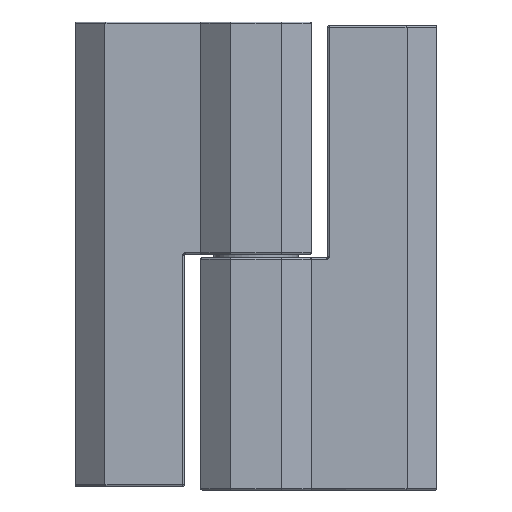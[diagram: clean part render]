
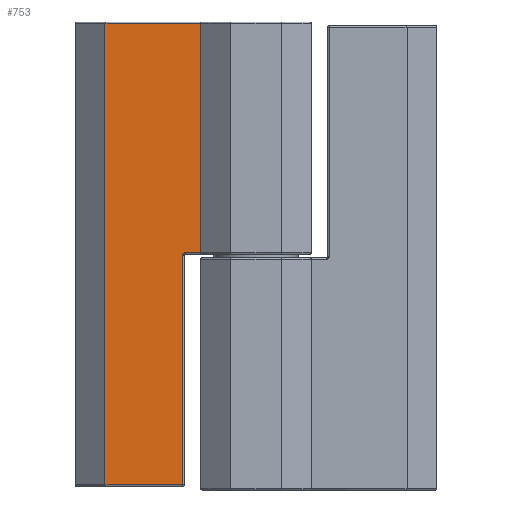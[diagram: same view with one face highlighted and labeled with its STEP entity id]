
A CAD part, front view. The second image highlights one B-rep face of the part: STEP entity #753.
In plain terms, the highlighted planar face has unit normal (0, -1, 0).
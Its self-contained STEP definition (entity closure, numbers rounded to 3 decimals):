
#9 = EDGE_CURVE ( 'NONE', #4362, #2622, #4369, .T. ) ;
#257 = ORIENTED_EDGE ( 'NONE', *, *, #3281, .T. ) ;
#267 = CARTESIAN_POINT ( 'NONE',  ( -1.45, -11., 64. ) ) ;
#299 = DIRECTION ( 'NONE',  ( 0., 0., 1. ) ) ;
#412 = ORIENTED_EDGE ( 'NONE', *, *, #1284, .T. ) ;
#524 = DIRECTION ( 'NONE',  ( -1., 0., 0. ) ) ;
#566 = ORIENTED_EDGE ( 'NONE', *, *, #2346, .T. ) ;
#589 = ORIENTED_EDGE ( 'NONE', *, *, #4426, .T. ) ;
#682 = VECTOR ( 'NONE', #299, 1000. ) ;
#690 = CARTESIAN_POINT ( 'NONE',  ( -1.45, -11., 31.8 ) ) ;
#692 = VERTEX_POINT ( 'NONE', #4321 ) ;
#753 = ADVANCED_FACE ( 'NONE', ( #4424 ), #1237, .F. ) ;
#781 = DIRECTION ( 'NONE',  ( 0., 0., 1. ) ) ;
#800 = EDGE_CURVE ( 'NONE', #1198, #4178, #3312, .T. ) ;
#918 = CARTESIAN_POINT ( 'NONE',  ( -12.15, -11., 63.8 ) ) ;
#942 = VECTOR ( 'NONE', #3270, 1000. ) ;
#961 = VECTOR ( 'NONE', #1096, 1000. ) ;
#991 = VERTEX_POINT ( 'NONE', #4474 ) ;
#1096 = DIRECTION ( 'NONE',  ( 0., 0., -1. ) ) ;
#1146 = VERTEX_POINT ( 'NONE', #918 ) ;
#1172 = CARTESIAN_POINT ( 'NONE',  ( -12.15, -11., 64. ) ) ;
#1197 = DIRECTION ( 'NONE',  ( 0., 0., 1. ) ) ;
#1198 = VERTEX_POINT ( 'NONE', #3873 ) ;
#1237 = PLANE ( 'NONE',  #2738 ) ;
#1284 = EDGE_CURVE ( 'NONE', #4362, #4178, #3155, .T. ) ;
#1432 = LINE ( 'NONE', #4278, #961 ) ;
#1959 = ORIENTED_EDGE ( 'NONE', *, *, #9, .F. ) ;
#2195 = VECTOR ( 'NONE', #524, 1000. ) ;
#2250 = CARTESIAN_POINT ( 'NONE',  ( 1.05, -11., 64. ) ) ;
#2262 = CARTESIAN_POINT ( 'NONE',  ( -1.05, -11., 32.2 ) ) ;
#2346 = EDGE_CURVE ( 'NONE', #692, #2622, #3108, .T. ) ;
#2545 = CARTESIAN_POINT ( 'NONE',  ( -1.05, -11., 31.8 ) ) ;
#2611 = LINE ( 'NONE', #4445, #2195 ) ;
#2622 = VERTEX_POINT ( 'NONE', #690 ) ;
#2738 = AXIS2_PLACEMENT_3D ( 'NONE', #1172, #3011, #1197 ) ;
#2831 = DIRECTION ( 'NONE',  ( 1., 0., 0. ) ) ;
#2889 = VECTOR ( 'NONE', #4008, 1000. ) ;
#2896 = CARTESIAN_POINT ( 'NONE',  ( 1.05, -11., 32.2 ) ) ;
#2921 = LINE ( 'NONE', #3288, #942 ) ;
#3011 = DIRECTION ( 'NONE',  ( 0., 1., 0. ) ) ;
#3108 = LINE ( 'NONE', #267, #682 ) ;
#3155 = LINE ( 'NONE', #3847, #3935 ) ;
#3270 = DIRECTION ( 'NONE',  ( 1., 0., 0. ) ) ;
#3281 = EDGE_CURVE ( 'NONE', #991, #692, #2921, .T. ) ;
#3288 = CARTESIAN_POINT ( 'NONE',  ( -12.15, -11., 0.2 ) ) ;
#3312 = LINE ( 'NONE', #2250, #2889 ) ;
#3616 = EDGE_CURVE ( 'NONE', #1198, #1146, #2611, .T. ) ;
#3847 = CARTESIAN_POINT ( 'NONE',  ( -12.15, -11., 32.2 ) ) ;
#3873 = CARTESIAN_POINT ( 'NONE',  ( 1.05, -11., 63.8 ) ) ;
#3882 = ORIENTED_EDGE ( 'NONE', *, *, #800, .F. ) ;
#3935 = VECTOR ( 'NONE', #2831, 1000. ) ;
#3958 = DIRECTION ( 'NONE',  ( 0., -1., 0. ) ) ;
#4008 = DIRECTION ( 'NONE',  ( 0., 0., -1. ) ) ;
#4033 = EDGE_LOOP ( 'NONE', ( #3882, #4536, #589, #257, #566, #1959, #412 ) ) ;
#4178 = VERTEX_POINT ( 'NONE', #2896 ) ;
#4278 = CARTESIAN_POINT ( 'NONE',  ( -12.15, -11., 64. ) ) ;
#4304 = AXIS2_PLACEMENT_3D ( 'NONE', #2545, #3958, #781 ) ;
#4321 = CARTESIAN_POINT ( 'NONE',  ( -1.45, -11., 0.2 ) ) ;
#4362 = VERTEX_POINT ( 'NONE', #2262 ) ;
#4369 = CIRCLE ( 'NONE', #4304, 0.4 ) ;
#4424 = FACE_OUTER_BOUND ( 'NONE', #4033, .T. ) ;
#4426 = EDGE_CURVE ( 'NONE', #1146, #991, #1432, .T. ) ;
#4445 = CARTESIAN_POINT ( 'NONE',  ( -12.15, -11., 63.8 ) ) ;
#4474 = CARTESIAN_POINT ( 'NONE',  ( -12.15, -11., 0.2 ) ) ;
#4536 = ORIENTED_EDGE ( 'NONE', *, *, #3616, .T. ) ;
